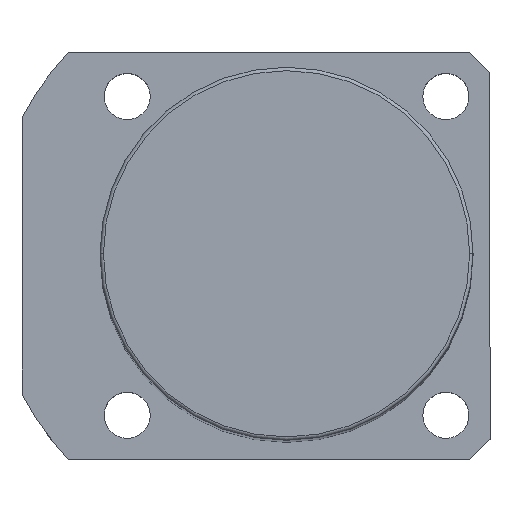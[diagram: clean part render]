
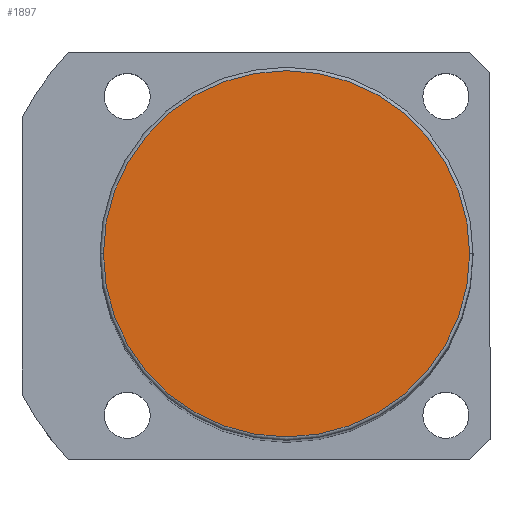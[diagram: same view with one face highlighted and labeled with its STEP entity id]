
A CAD part, top view. The second image highlights one B-rep face of the part: STEP entity #1897.
In plain terms, the highlighted planar face has unit normal (0, 0, 1).
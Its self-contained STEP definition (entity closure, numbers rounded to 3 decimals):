
#14 = FACE_OUTER_BOUND ( 'NONE', #649, .T. ) ;
#30 = CARTESIAN_POINT ( 'NONE',  ( 0., 0., 186. ) ) ;
#180 = VERTEX_POINT ( 'NONE', #1793 ) ;
#193 = EDGE_CURVE ( 'NONE', #180, #1708, #607, .T. ) ;
#365 = EDGE_CURVE ( 'NONE', #1708, #180, #850, .T. ) ;
#386 = PLANE ( 'NONE',  #1926 ) ;
#455 = CARTESIAN_POINT ( 'NONE',  ( 0., 0., 186. ) ) ;
#540 = ORIENTED_EDGE ( 'NONE', *, *, #193, .T. ) ;
#607 = CIRCLE ( 'NONE', #622, 27. ) ;
#622 = AXIS2_PLACEMENT_3D ( 'NONE', #1954, #1934, #1421 ) ;
#649 = EDGE_LOOP ( 'NONE', ( #1351, #540 ) ) ;
#850 = CIRCLE ( 'NONE', #1728, 27. ) ;
#1030 = DIRECTION ( 'NONE',  ( 0., 0., 1. ) ) ;
#1351 = ORIENTED_EDGE ( 'NONE', *, *, #365, .T. ) ;
#1421 = DIRECTION ( 'NONE',  ( 1., 0., 0. ) ) ;
#1552 = DIRECTION ( 'NONE',  ( 1., 0., 0. ) ) ;
#1708 = VERTEX_POINT ( 'NONE', #2008 ) ;
#1728 = AXIS2_PLACEMENT_3D ( 'NONE', #455, #2161, #1979 ) ;
#1793 = CARTESIAN_POINT ( 'NONE',  ( -27., 0., 186. ) ) ;
#1897 = ADVANCED_FACE ( 'NONE', ( #14 ), #386, .T. ) ;
#1926 = AXIS2_PLACEMENT_3D ( 'NONE', #30, #1030, #1552 ) ;
#1934 = DIRECTION ( 'NONE',  ( 0., 0., 1. ) ) ;
#1954 = CARTESIAN_POINT ( 'NONE',  ( 0., 0., 186. ) ) ;
#1979 = DIRECTION ( 'NONE',  ( 1., 0., 0. ) ) ;
#2008 = CARTESIAN_POINT ( 'NONE',  ( 27., 0., 186. ) ) ;
#2161 = DIRECTION ( 'NONE',  ( 0., 0., 1. ) ) ;
